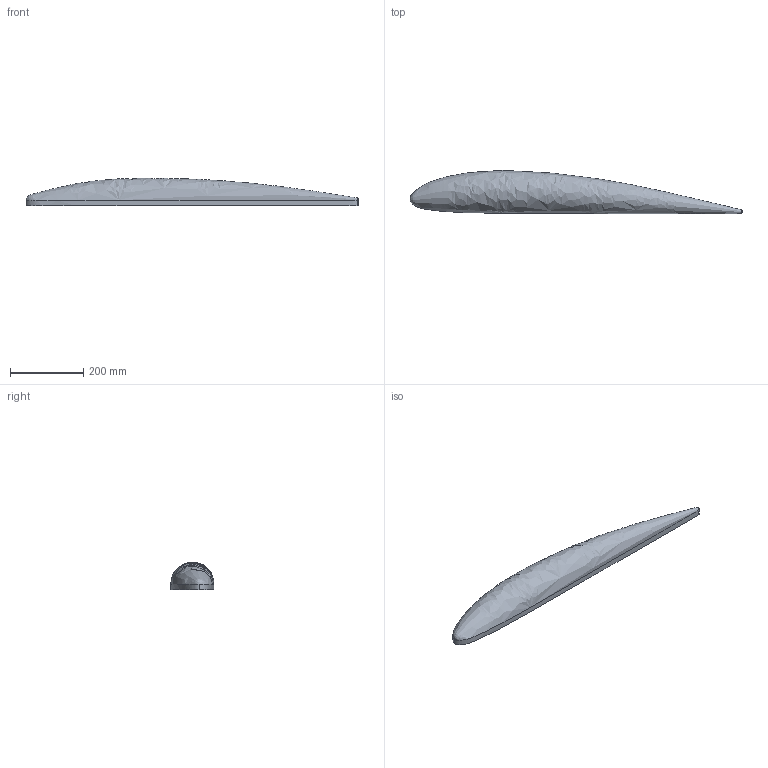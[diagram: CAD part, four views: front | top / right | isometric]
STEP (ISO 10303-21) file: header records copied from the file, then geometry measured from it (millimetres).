
FILE_DESCRIPTION(/* description */ (''),/* implementation_level */ '2;1');
FILE_NAME(/* name */'C:\Arbeitsverzeichnis\IBS-Vault\User\Sattelberger\Teile\Wing Tip Left.stp',/* time_stamp */ '2021-12-03T12:25:16+01:00',/* author */ ('sattelberger'),/* organization */ (''),/* preprocessor_version */ 'ST-DEVELOPER v17.2',/* originating_system */ 'Autodesk Inventor 2019',/* authorisation */ '');
FILE_SCHEMA (('AUTOMOTIVE_DESIGN { 1 0 10303 214 3 1 1 }'));
Length unit declared in the file: millimetre
Products named in the file (1): 20201939
Bounding box: 904.97 x 117.49 x 74.74 mm (x, y, z)
Volume: 3941643.3 mm3; surface area: 221814 mm2
Topology: 1 solids, 1 shells, 9 faces, 23 edges, 16 vertices
Faces by surface type: bspline 5, plane 3, torus 1
Entity records: 3785 total; most frequent: CARTESIAN_POINT 3556, ORIENTED_EDGE 46, DIRECTION 24, EDGE_CURVE 23, VERTEX_POINT 16, B_SPLINE_CURVE_WITH_KNOTS 12, FACE_OUTER_BOUND 9, EDGE_LOOP 9
